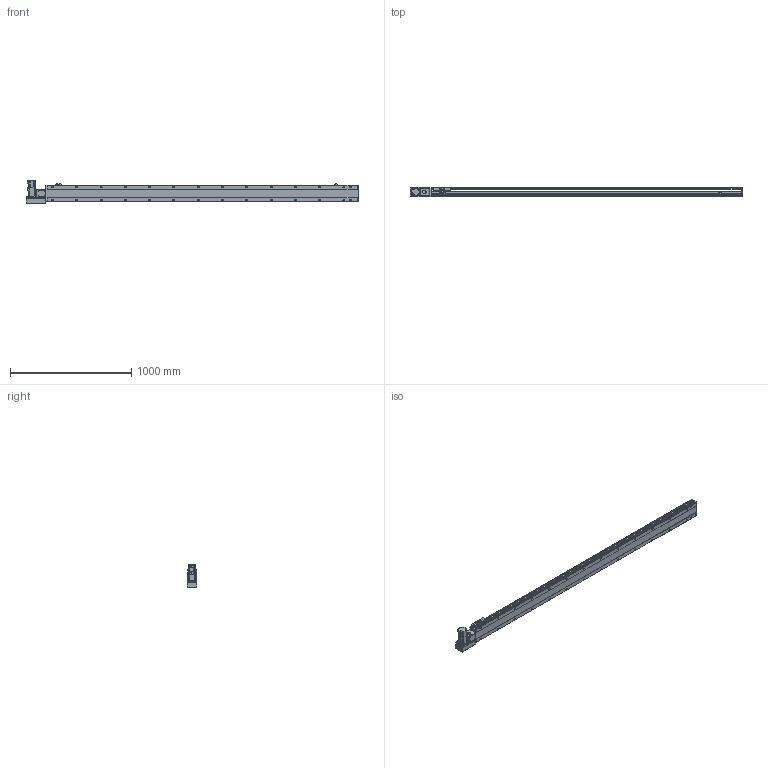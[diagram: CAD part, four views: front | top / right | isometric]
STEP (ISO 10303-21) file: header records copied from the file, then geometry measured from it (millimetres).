
FILE_DESCRIPTION( ( 'STEP AP214' ), '1' );
FILE_NAME( 'x:/temp/worker_27/temp/exporttempdir_6708_310_79nYI/format_0/PBS140-P40-S2300-L-T40-C1-N(0).stp', '2022-06-06T01:06:56', ( 'License CC BY-ND 4.0' ), ( 'CADENAS' ), ' ', 'PARTsolutions', ' ' );
FILE_SCHEMA( ( 'AUTOMOTIVE_DESIGN { 1 0 10303 214 1 1 1 1 }' ) );
Length unit declared in the file: millimetre
Products named in the file (7): PBS140-P40-S2300-L-T40-C1-N(0); _PBS140-S2300()_body; _PBS140T-L_motors; _T40-p1; _PBS140_sliser; _PBS140_plant; _PBS140_sensor
Assembly tree (8 placements, depth 2):
  PBS140-P40-S2300-L-T40-C1-N(0)
    _PBS140-S2300()_body
    _PBS140T-L_motors
    _T40-p1
    _PBS140_sliser
    _PBS140_plant
    _PBS140_sensor  x3
Bounding box: 2733 x 80.5 x 189.7 mm (x, y, z)
Volume: 11960534.8 mm3; surface area: 2041988.6 mm2
Topology: 8 solids, 8 shells, 1171 faces, 3076 edges, 2009 vertices
Faces by surface type: plane 728, cylinder 379, cone 54, sphere 8, torus 2
Full cylindrical faces by diameter (mm): 3.242 x4, 4 x2, 4.134 x4, 4.4 x8, 4.5 x2, 4.8 x4, 4.917 x36, 5.5 x7, 6 x2, 7 x30, 7.5 x8, 8 x12, 8.5 x4, 10.5 x28, 14 x1, 30 x2, 50 x2
Entity records: 43141 total; most frequent: CARTESIAN_POINT 7259, DIRECTION 5617, ORIENTED_EDGE 5272, EDGE_CURVE 2636, AXIS2_PLACEMENT_3D 1987, VERTEX_POINT 1845, LINE 1643, VECTOR 1643
